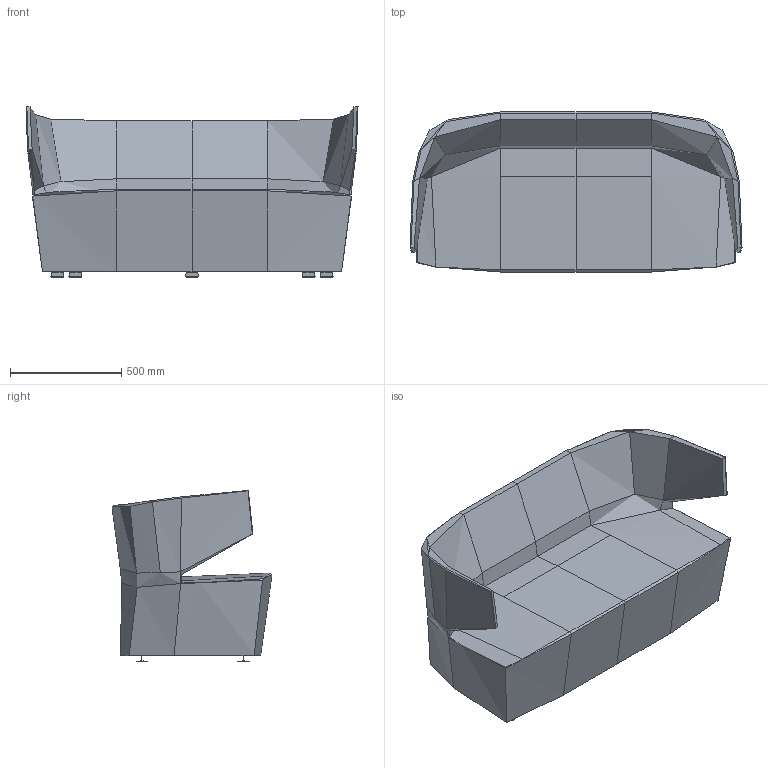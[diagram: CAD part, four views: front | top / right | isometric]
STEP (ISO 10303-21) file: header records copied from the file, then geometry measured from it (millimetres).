
FILE_DESCRIPTION(/* description */ (''),/* implementation_level */ '2;1');
FILE_NAME(/* name */ 'CLUBK2~1',/* time_stamp */ '2017-03-10T19:40:20+01:00',/* author */ (''),/* organization */ (''),/* preprocessor_version */ 'ST-DEVELOPER v15',/* originating_system */ '',/* authorisation */ '');
FILE_SCHEMA (('CONFIG_CONTROL_DESIGN'));
Length unit declared in the file: millimetre
Products named in the file (1): Document
Bounding box: 1493.27 x 719.65 x 770.13 mm (x, y, z)
Surface area: 4707870.2 mm2 (no closed solid volume)
Topology: 0 solids, 8 shells, 122 faces, 281 edges, 163 vertices
Faces by surface type: bspline 116, plane 6
Entity records: 19570 total; most frequent: CARTESIAN_POINT 18046, ORIENTED_EDGE 488, EDGE_CURVE 274, VERTEX_POINT 160, ADVANCED_FACE 122, FACE_OUTER_BOUND 122, EDGE_LOOP 122, B_SPLINE_CURVE_WITH_KNOTS 71
